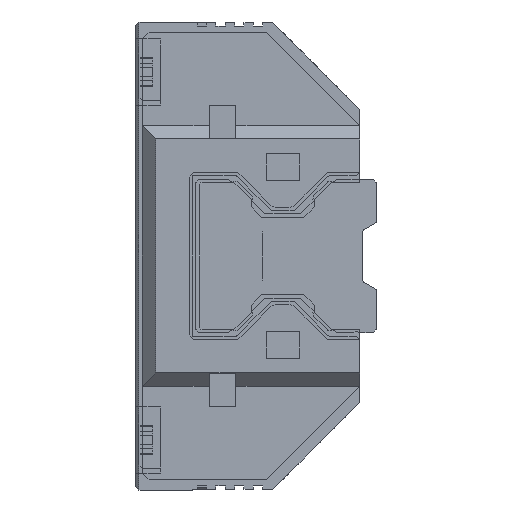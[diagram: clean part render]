
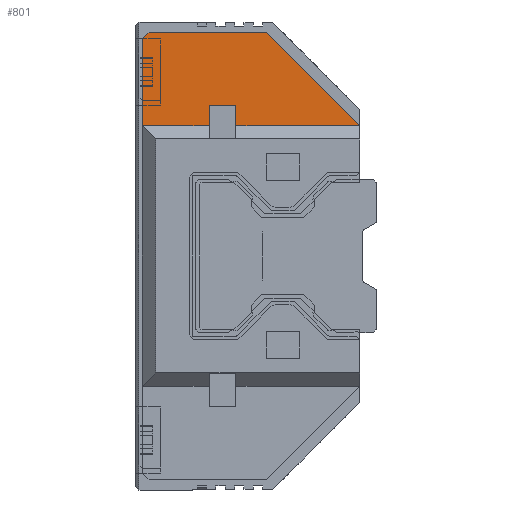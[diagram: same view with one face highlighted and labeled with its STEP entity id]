
A CAD part, left-side view. The second image highlights one B-rep face of the part: STEP entity #801.
In plain terms, the highlighted planar face has unit normal (-1, 0, 0).
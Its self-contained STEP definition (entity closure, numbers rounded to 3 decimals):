
#801 = ADVANCED_FACE( '', ( #2559 ), #2560, .T. );
#2559 = FACE_OUTER_BOUND( '', #4399, .T. );
#2560 = PLANE( '', #4400 );
#4399 = EDGE_LOOP( '', ( #9236, #9237, #9238, #9239, #9240, #9241, #9242, #9243, #9244 ) );
#4400 = AXIS2_PLACEMENT_3D( '', #9245, #9246, #9247 );
#9236 = ORIENTED_EDGE( '', *, *, #11459, .F. );
#9237 = ORIENTED_EDGE( '', *, *, #11460, .T. );
#9238 = ORIENTED_EDGE( '', *, *, #11461, .T. );
#9239 = ORIENTED_EDGE( '', *, *, #11238, .T. );
#9240 = ORIENTED_EDGE( '', *, *, #11257, .F. );
#9241 = ORIENTED_EDGE( '', *, *, #11255, .F. );
#9242 = ORIENTED_EDGE( '', *, *, #11263, .F. );
#9243 = ORIENTED_EDGE( '', *, *, #11221, .F. );
#9244 = ORIENTED_EDGE( '', *, *, #11236, .T. );
#9245 = CARTESIAN_POINT( '', ( -52., 49., 53. ) );
#9246 = DIRECTION( '', ( -1., 0., 0. ) );
#9247 = DIRECTION( '', ( 0., 0., 1. ) );
#11221 = EDGE_CURVE( '', #13813, #13815, #13816, .T. );
#11236 = EDGE_CURVE( '', #13813, #13838, #13841, .T. );
#11238 = EDGE_CURVE( '', #13843, #13569, #13844, .T. );
#11255 = EDGE_CURVE( '', #13871, #13873, #13874, .T. );
#11257 = EDGE_CURVE( '', #13873, #13569, #13876, .T. );
#11263 = EDGE_CURVE( '', #13815, #13871, #13884, .T. );
#11459 = EDGE_CURVE( '', #14196, #13838, #14197, .T. );
#11460 = EDGE_CURVE( '', #14196, #14198, #14199, .T. );
#11461 = EDGE_CURVE( '', #14198, #13843, #14200, .T. );
#13569 = VERTEX_POINT( '', #16954 );
#13813 = VERTEX_POINT( '', #17336 );
#13815 = VERTEX_POINT( '', #17339 );
#13816 = LINE( '', #17340, #17341 );
#13838 = VERTEX_POINT( '', #17376 );
#13841 = LINE( '', #17380, #17381 );
#13843 = VERTEX_POINT( '', #17384 );
#13844 = LINE( '', #17385, #17386 );
#13871 = VERTEX_POINT( '', #17428 );
#13873 = VERTEX_POINT( '', #17431 );
#13874 = LINE( '', #17432, #17433 );
#13876 = LINE( '', #17436, #17437 );
#13884 = LINE( '', #17450, #17451 );
#14196 = VERTEX_POINT( '', #17919 );
#14197 = LINE( '', #17920, #17921 );
#14198 = VERTEX_POINT( '', #17922 );
#14199 = LINE( '', #17923, #17924 );
#14200 = LINE( '', #17925, #17926 );
#16954 = CARTESIAN_POINT( '', ( -52., -11., 19.5 ) );
#17336 = CARTESIAN_POINT( '', ( -52., 21.5, 19.5 ) );
#17339 = CARTESIAN_POINT( '', ( -52., 21.5, 32.5 ) );
#17340 = CARTESIAN_POINT( '', ( -52., 21.5, -32.5 ) );
#17341 = VECTOR( '', #20753, 1000. );
#17376 = CARTESIAN_POINT( '', ( -52., 11.5, 19.5 ) );
#17380 = CARTESIAN_POINT( '', ( -52., 49., 19.5 ) );
#17381 = VECTOR( '', #20768, 1000. );
#17384 = CARTESIAN_POINT( '', ( -52., 7.5, 19.5 ) );
#17385 = CARTESIAN_POINT( '', ( -52., 49., 19.5 ) );
#17386 = VECTOR( '', #20770, 1000. );
#17428 = CARTESIAN_POINT( '', ( -52., 20.5, 33.5 ) );
#17431 = CARTESIAN_POINT( '', ( -52., 3., 33.5 ) );
#17432 = CARTESIAN_POINT( '', ( -52., 20.5, 33.5 ) );
#17433 = VECTOR( '', #20787, 1000. );
#17436 = CARTESIAN_POINT( '', ( -52., 3., 33.5 ) );
#17437 = VECTOR( '', #20789, 1000. );
#17450 = CARTESIAN_POINT( '', ( -52., 21.5, 32.5 ) );
#17451 = VECTOR( '', #20795, 1000. );
#17919 = CARTESIAN_POINT( '', ( -52., 11.5, 22.5 ) );
#17920 = CARTESIAN_POINT( '', ( -52., 11.5, 53. ) );
#17921 = VECTOR( '', #21069, 1000. );
#17922 = CARTESIAN_POINT( '', ( -52., 7.5, 22.5 ) );
#17923 = CARTESIAN_POINT( '', ( -52., 49., 22.5 ) );
#17924 = VECTOR( '', #21070, 1000. );
#17925 = CARTESIAN_POINT( '', ( -52., 7.5, 53. ) );
#17926 = VECTOR( '', #21071, 1000. );
#20753 = DIRECTION( '', ( 0., 0., 1. ) );
#20768 = DIRECTION( '', ( 0., -1., 0. ) );
#20770 = DIRECTION( '', ( 0., -1., 0. ) );
#20787 = DIRECTION( '', ( 0., -1., 0. ) );
#20789 = DIRECTION( '', ( 0., -0.707, -0.707 ) );
#20795 = DIRECTION( '', ( 0., -0.707, 0.707 ) );
#21069 = DIRECTION( '', ( 0., 0., -1. ) );
#21070 = DIRECTION( '', ( 0., -1., 0. ) );
#21071 = DIRECTION( '', ( 0., 0., -1. ) );
